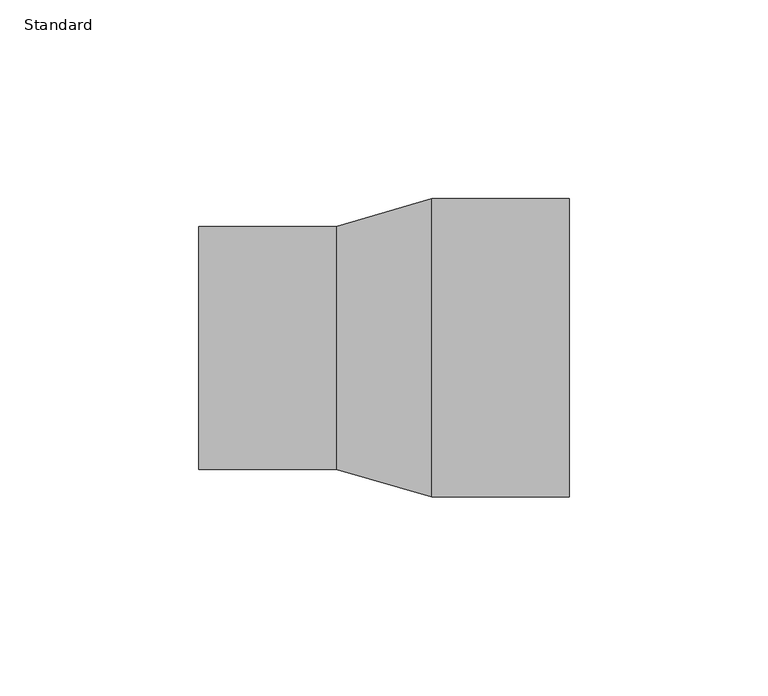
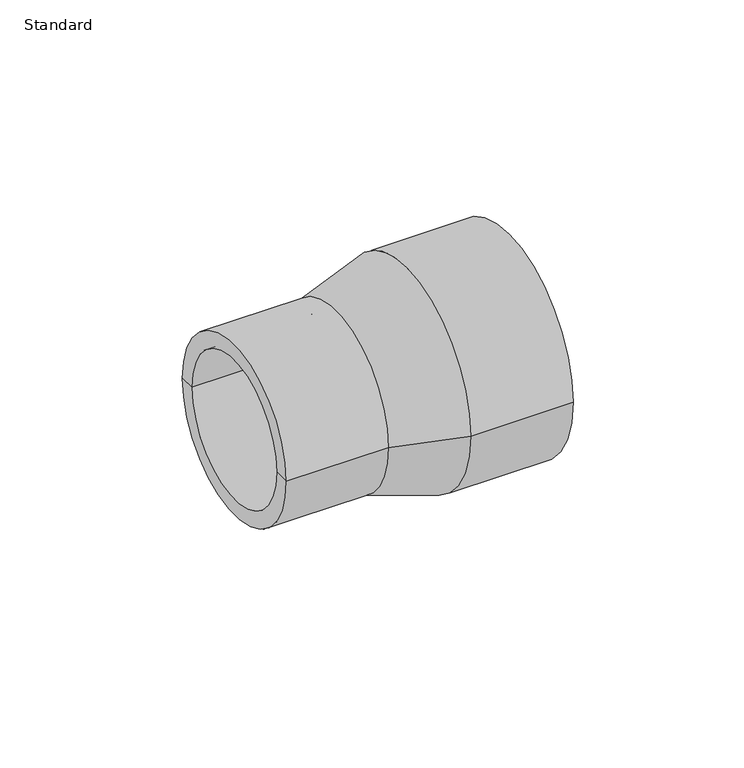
"""IFC4 building model written with IfcOpenShell, lengths in millimetres: pipe fitting geometry, Durapipe_PipeFitting_PVC_Reducers : Standard."""

from ifc_helpers import new_model, si_unit, frame, origin, place, context, project, spatial, polyline, circle_curve, source, transform, mapped, element, save
from ifc_brep_helpers import plane_surface, cylinder_surface, revolved_surface, advanced_brep


def standard_1e7e4467(model_context):
    return source(origin(), model_context, "Body", "AdvancedBrep", [
        advanced_brep(
        [(-46.5, -30.5, 0.0), (-46.5, 30.5, 0.0), (-12.0, 30.5, 0.0), (-12.0, -30.5, 0.0), (-46.5, -25.0, 0.0), (-46.5, 25.0, 0.0), (46.5, -37.5, 0.0), (46.5, 37.5, 0.0), (46.5, 31.5, 0.0), (46.5, -31.5, 0.0), (12.0, -37.5, 0.0), (12.0, 37.5, 0.0), (-12.0, -25.0, 0.0), (-12.0, 25.0, 0.0), (-12.0, 0.0, 0.0), (12.0, -31.5, 0.0), (12.0, 31.5, 0.0), (12.0, 0.0, 0.0)],
        [
            (0, 1, circle_curve(frame((-46.5, 0.0, 0.0), z_axis=(1.0, 0.0, 0.0), x_axis=(0.0, 1.0, 0.0)), 30.5)),
            (1, 2),
            (2, 3, circle_curve(frame((-12.0, 0.0, 0.0), z_axis=(-1.0, 0.0, 0.0), x_axis=(0.0, 1.0, 0.0)), 30.5)),
            (3, 0),
            (1, 0, circle_curve(frame((-46.5, 0.0, 0.0), z_axis=(1.0, 0.0, 0.0), x_axis=(0.0, 1.0, 0.0)), 30.5)),
            (3, 2, circle_curve(frame((-12.0, 0.0, 0.0), z_axis=(-1.0, 0.0, 0.0), x_axis=(0.0, 1.0, 0.0)), 30.5)),
            (4, 5, circle_curve(frame((-46.5, 0.0, 0.0), z_axis=(1.0, 0.0, 0.0), x_axis=(0.0, 1.0, 0.0)), 25.0)),
            (5, 1),
            (0, 4),
            (5, 4, circle_curve(frame((-46.5, 0.0, 0.0), z_axis=(1.0, 0.0, 0.0), x_axis=(0.0, 1.0, 0.0)), 25.0)),
            (6, 7, circle_curve(frame((46.5, 0.0, 0.0), z_axis=(1.0, 0.0, 0.0), x_axis=(0.0, 1.0, 0.0)), 37.5)),
            (7, 8),
            (8, 9, circle_curve(frame((46.5, 0.0, 0.0), z_axis=(-1.0, 0.0, 0.0), x_axis=(0.0, 1.0, 0.0)), 31.5)),
            (9, 6),
            (7, 6, circle_curve(frame((46.5, 0.0, 0.0), z_axis=(1.0, 0.0, 0.0), x_axis=(0.0, 1.0, 0.0)), 37.5)),
            (9, 8, circle_curve(frame((46.5, 0.0, 0.0), z_axis=(-1.0, 0.0, 0.0), x_axis=(0.0, 1.0, 0.0)), 31.5)),
            (10, 11, circle_curve(frame((12.0, 0.0, 0.0), z_axis=(1.0, 0.0, 0.0), x_axis=(0.0, 1.0, 0.0)), 37.5)),
            (11, 7),
            (6, 10),
            (11, 10, circle_curve(frame((12.0, 0.0, 0.0), z_axis=(1.0, 0.0, 0.0), x_axis=(0.0, 1.0, 0.0)), 37.5)),
            (2, 11),
            (10, 3),
            (12, 13, circle_curve(frame((-12.0, 0.0, 0.0), z_axis=(1.0, 0.0, 0.0), x_axis=(0.0, 1.0, 0.0)), 25.0)),
            (13, 5),
            (4, 12),
            (13, 12, circle_curve(frame((-12.0, 0.0, 0.0), z_axis=(1.0, 0.0, 0.0), x_axis=(0.0, 1.0, 0.0)), 25.0)),
            (14, 13),
            (12, 14),
            (15, 16, circle_curve(frame((12.0, 0.0, 0.0), z_axis=(1.0, 0.0, 0.0), x_axis=(0.0, 1.0, 0.0)), 31.5)),
            (16, 17),
            (17, 15),
            (16, 15, circle_curve(frame((12.0, 0.0, 0.0), z_axis=(1.0, 0.0, 0.0), x_axis=(0.0, 1.0, 0.0)), 31.5)),
            (8, 16),
            (15, 9),
        ],
        [
            cylinder_surface(frame((-46.5, 0.0, 0.0), z_axis=(-1.0, 0.0, 0.0), x_axis=(0.0, 1.0, 0.0)), 30.5),
            plane_surface(frame((-46.5, 0.0, 0.0), z_axis=(-1.0, 0.0, 0.0), x_axis=(0.0, 1.0, 0.0))),
            plane_surface(frame((46.5, 0.0, 0.0), z_axis=(1.0, 0.0, 0.0), x_axis=(0.0, 1.0, 0.0))),
            cylinder_surface(frame((-46.5, 0.0, 0.0), z_axis=(-1.0, 0.0, 0.0), x_axis=(0.0, 1.0, 0.0)), 37.5),
            revolved_surface(polyline([(12.0, 37.5, 0.0), (-12.0, 30.5, 0.0)]), (-46.5, 0.0, 0.0), (-1.0, 0.0, 0.0)),
            revolved_surface(polyline([(-46.5, 25.0, 0.0), (-12.0, 25.0, 0.0)]), (-46.5, 0.0, 0.0), (-1.0, 0.0, 0.0)),
            plane_surface(frame((-12.0, 0.0, 0.0), z_axis=(-1.0, 0.0, 0.0), x_axis=(0.0, 1.0, 0.0))),
            plane_surface(frame((12.0, 0.0, 0.0), z_axis=(1.0, 0.0, 0.0), x_axis=(0.0, 1.0, 0.0))),
            revolved_surface(polyline([(12.0, 31.5, 0.0), (46.5, 31.5, 0.0)]), (-46.5, 0.0, 0.0), (-1.0, 0.0, 0.0)),
        ],
        [
            (0, [[1, 2, 3, 4]]),
            (0, [[5, -4, 6, -2]]),
            (1, [[7, 8, -1, 9]]),
            (1, [[10, -9, -5, -8]]),
            (2, [[11, 12, 13, 14]]),
            (2, [[15, -14, 16, -12]]),
            (3, [[17, 18, -11, 19]]),
            (3, [[20, -19, -15, -18]]),
            (4, [[-3, 21, -17, 22]]),
            (4, [[-6, -22, -20, -21]]),
            (5, [[23, 24, -7, 25]]),
            (5, [[26, -25, -10, -24]]),
            (6, [[27, -23, 28]]),
            (6, [[-28, -26, -27]]),
            (7, [[29, 30, 31]]),
            (7, [[32, -31, -30]]),
            (8, [[-13, 33, -29, 34]]),
            (8, [[-16, -34, -32, -33]]),
        ],
    ),
    ])


if __name__ == "__main__":
    model = new_model("IFC4")
    model_context = context("Model", 3, world=origin())
    ifc_project = project(units=[si_unit("LENGTHUNIT", "METRE", prefix="MILLI")], contexts=[model_context])
    site = spatial("IfcSite", under=ifc_project)
    building = spatial("IfcBuilding", under=site)
    placement = place(None, origin())
    standard_shape = standard_1e7e4467(model_context)
    element("IfcPipeFitting", 1, ObjectType="Durapipe_PipeFitting_PVC_Reducers : Standard", at=placement, inside=building, context=model_context, shape_type="MappedRepresentation", body=[
        mapped(standard_shape, transform((0.0, 0.0, 0.0), x_axis=(1.0, 0.0, 0.0), y_axis=(0.0, 1.0, 0.0), z_axis=(0.0, 0.0, 1.0))),
    ])
    save(model, "model.ifc")
